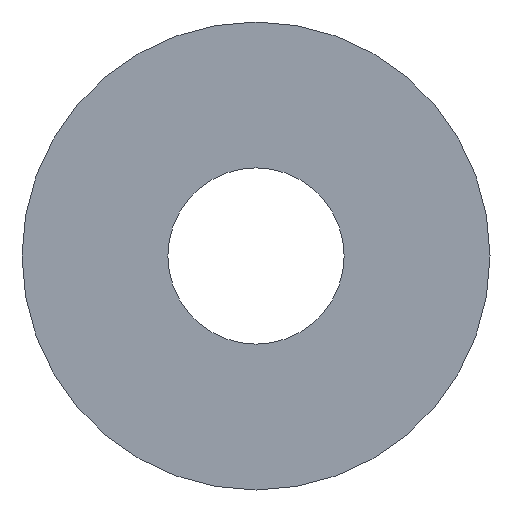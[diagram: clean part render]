
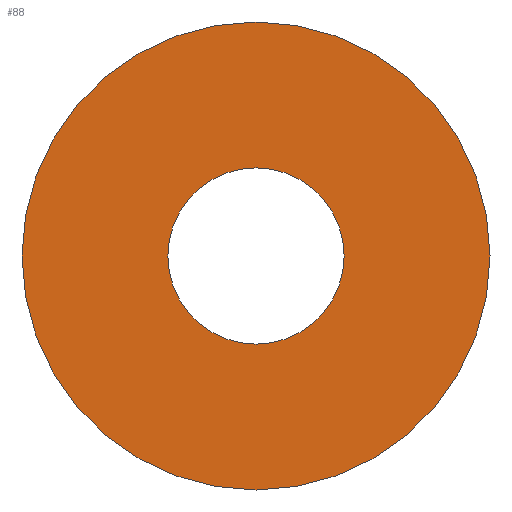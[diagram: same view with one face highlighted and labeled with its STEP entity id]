
A CAD part, front view. The second image highlights one B-rep face of the part: STEP entity #88.
In plain terms, the highlighted planar face has unit normal (0, -1, 0).
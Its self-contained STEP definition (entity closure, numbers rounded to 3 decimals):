
#2 = DIRECTION ( 'NONE',  ( 0., 1., 0. ) ) ;
#4 = DIRECTION ( 'NONE',  ( 0., 0., 1. ) ) ;
#8 = DIRECTION ( 'NONE',  ( 0., 0., 1. ) ) ;
#12 = AXIS2_PLACEMENT_3D ( 'NONE', #169, #129, #91 ) ;
#16 = EDGE_CURVE ( 'NONE', #178, #145, #38, .T. ) ;
#34 = EDGE_CURVE ( 'NONE', #145, #178, #172, .T. ) ;
#38 = CIRCLE ( 'NONE', #198, 215. ) ;
#46 = CARTESIAN_POINT ( 'NONE',  ( 0., 0., 571. ) ) ;
#51 = CARTESIAN_POINT ( 'NONE',  ( 0., 0., -215. ) ) ;
#60 = AXIS2_PLACEMENT_3D ( 'NONE', #181, #2, #4 ) ;
#61 = ORIENTED_EDGE ( 'NONE', *, *, #34, .T. ) ;
#69 = EDGE_CURVE ( 'NONE', #180, #176, #235, .T. ) ;
#70 = FACE_OUTER_BOUND ( 'NONE', #82, .T. ) ;
#82 = EDGE_LOOP ( 'NONE', ( #140, #122 ) ) ;
#88 = ADVANCED_FACE ( 'NONE', ( #70, #89 ), #149, .F. ) ;
#89 = FACE_BOUND ( 'NONE', #165, .T. ) ;
#91 = DIRECTION ( 'NONE',  ( 0., 0., 1. ) ) ;
#100 = ORIENTED_EDGE ( 'NONE', *, *, #16, .T. ) ;
#101 = AXIS2_PLACEMENT_3D ( 'NONE', #220, #150, #104 ) ;
#104 = DIRECTION ( 'NONE',  ( 0., 0., 1. ) ) ;
#117 = CARTESIAN_POINT ( 'NONE',  ( 0., 0., 0. ) ) ;
#118 = DIRECTION ( 'NONE',  ( 0., 1., 0. ) ) ;
#122 = ORIENTED_EDGE ( 'NONE', *, *, #160, .F. ) ;
#129 = DIRECTION ( 'NONE',  ( 0., 1., 0. ) ) ;
#140 = ORIENTED_EDGE ( 'NONE', *, *, #69, .F. ) ;
#141 = AXIS2_PLACEMENT_3D ( 'NONE', #170, #205, #8 ) ;
#145 = VERTEX_POINT ( 'NONE', #185 ) ;
#149 = PLANE ( 'NONE',  #12 ) ;
#150 = DIRECTION ( 'NONE',  ( 0., 1., 0. ) ) ;
#160 = EDGE_CURVE ( 'NONE', #176, #180, #211, .T. ) ;
#165 = EDGE_LOOP ( 'NONE', ( #100, #61 ) ) ;
#169 = CARTESIAN_POINT ( 'NONE',  ( 0., 0., 0. ) ) ;
#170 = CARTESIAN_POINT ( 'NONE',  ( 0., 0., 0. ) ) ;
#172 = CIRCLE ( 'NONE', #60, 215. ) ;
#176 = VERTEX_POINT ( 'NONE', #46 ) ;
#178 = VERTEX_POINT ( 'NONE', #51 ) ;
#180 = VERTEX_POINT ( 'NONE', #204 ) ;
#181 = CARTESIAN_POINT ( 'NONE',  ( 0., 0., 0. ) ) ;
#185 = CARTESIAN_POINT ( 'NONE',  ( 0., 0., 215. ) ) ;
#195 = DIRECTION ( 'NONE',  ( 0., 0., 1. ) ) ;
#198 = AXIS2_PLACEMENT_3D ( 'NONE', #117, #118, #195 ) ;
#204 = CARTESIAN_POINT ( 'NONE',  ( 0., 0., -571. ) ) ;
#205 = DIRECTION ( 'NONE',  ( 0., 1., 0. ) ) ;
#211 = CIRCLE ( 'NONE', #101, 571. ) ;
#220 = CARTESIAN_POINT ( 'NONE',  ( 0., 0., 0. ) ) ;
#235 = CIRCLE ( 'NONE', #141, 571. ) ;
